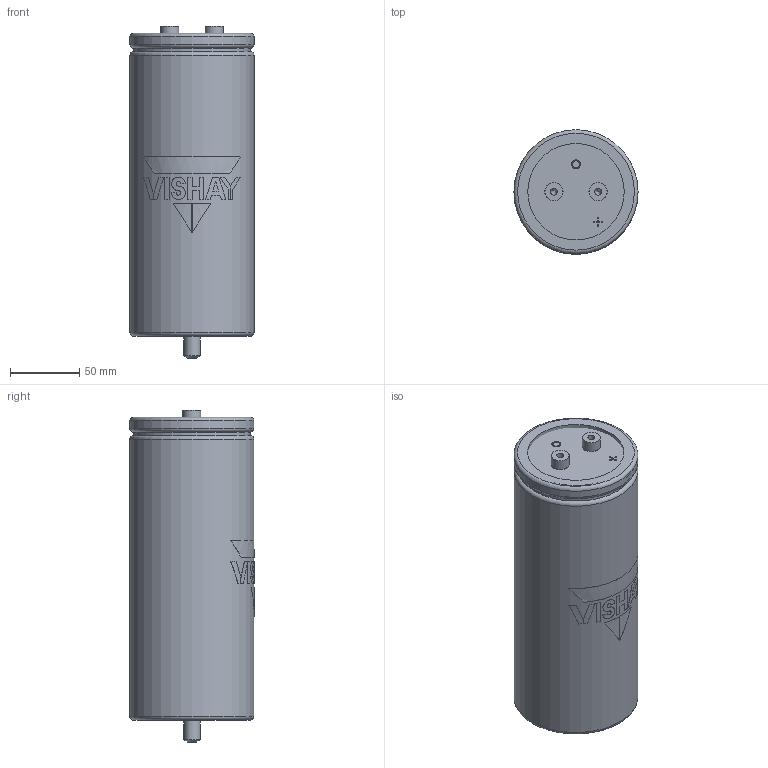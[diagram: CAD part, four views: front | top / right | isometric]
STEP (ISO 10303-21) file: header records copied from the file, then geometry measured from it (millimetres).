
FILE_DESCRIPTION(('FreeCAD Model'),'2;1');
FILE_NAME('C:/Users/tvandesteeg/Documents/Documents/FreeCAD/Stepfiles/ST capacitors/STB_HP_13mm_M6_90x220.step','2020-12-14T16:47:27',('Author'), (''),'Open CASCADE STEP processor 7.3','FreeCAD','Unknown');
FILE_SCHEMA(('AUTOMOTIVE_DESIGN { 1 0 10303 214 1 1 1 1 }'));
Length unit declared in the file: millimetre
Products named in the file (8): VentBody; TerminalBody_(Mirror_#2); TerminalBody; Disc; LogoPrint; CanBody; TerminalHole; STBBottomBody
Bounding box: 89.4 x 89.5 x 239.2 mm (x, y, z)
Volume: 1368429.2 mm3; surface area: 109867.6 mm2
Topology: 18 solids, 18 shells, 155 faces, 321 edges, 211 vertices
Faces by surface type: plane 96, cylinder 50, torus 5, cone 4
Full cylindrical faces by diameter (mm): 5 x4, 11.966 x1, 13 x2, 13.05 x7, 13.1 x2, 69.533 x3, 79 x2, 84.2 x1, 89.4 x2
Entity records: 10876 total; most frequent: CARTESIAN_POINT 3368, DIRECTION 1245, ORIENTED_EDGE 638, PCURVE 638, DEFINITIONAL_REPRESENTATION 638, LINE 547, VECTOR 547, EDGE_CURVE 319
